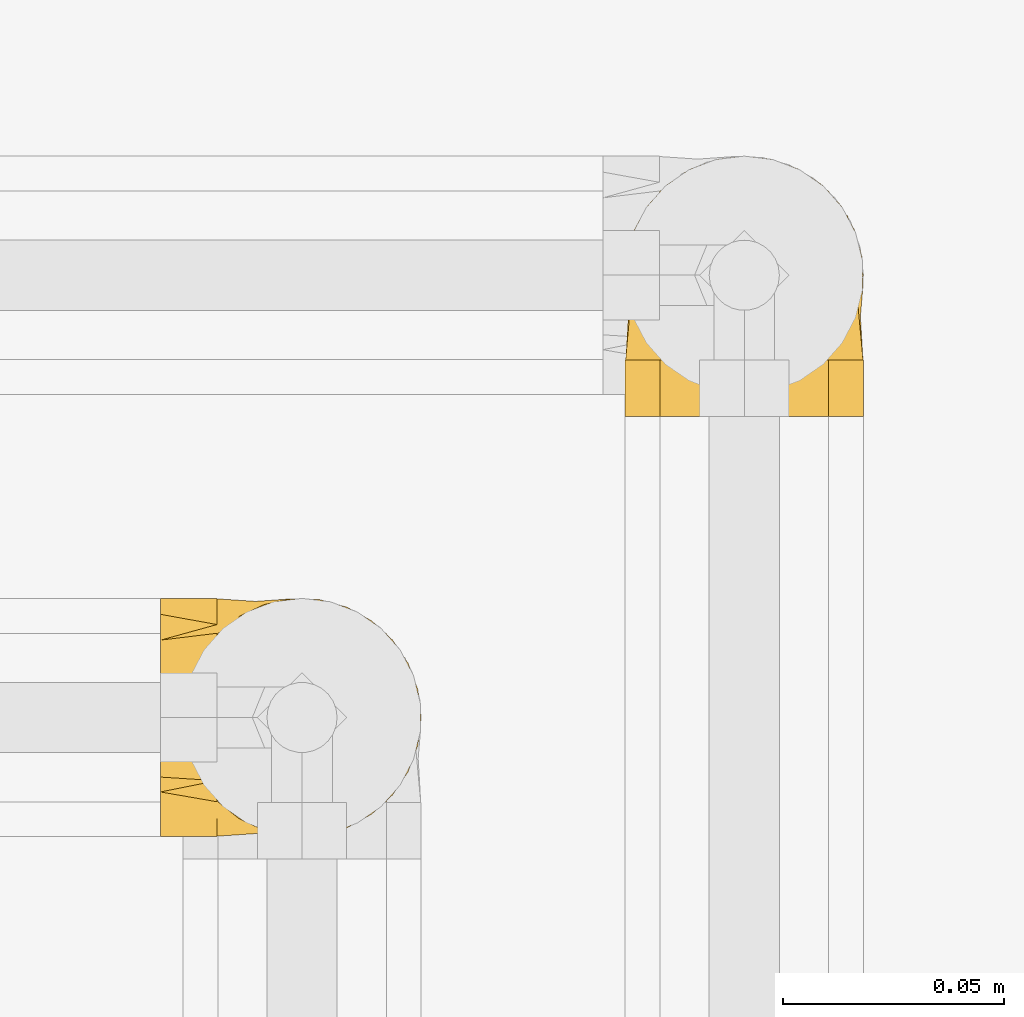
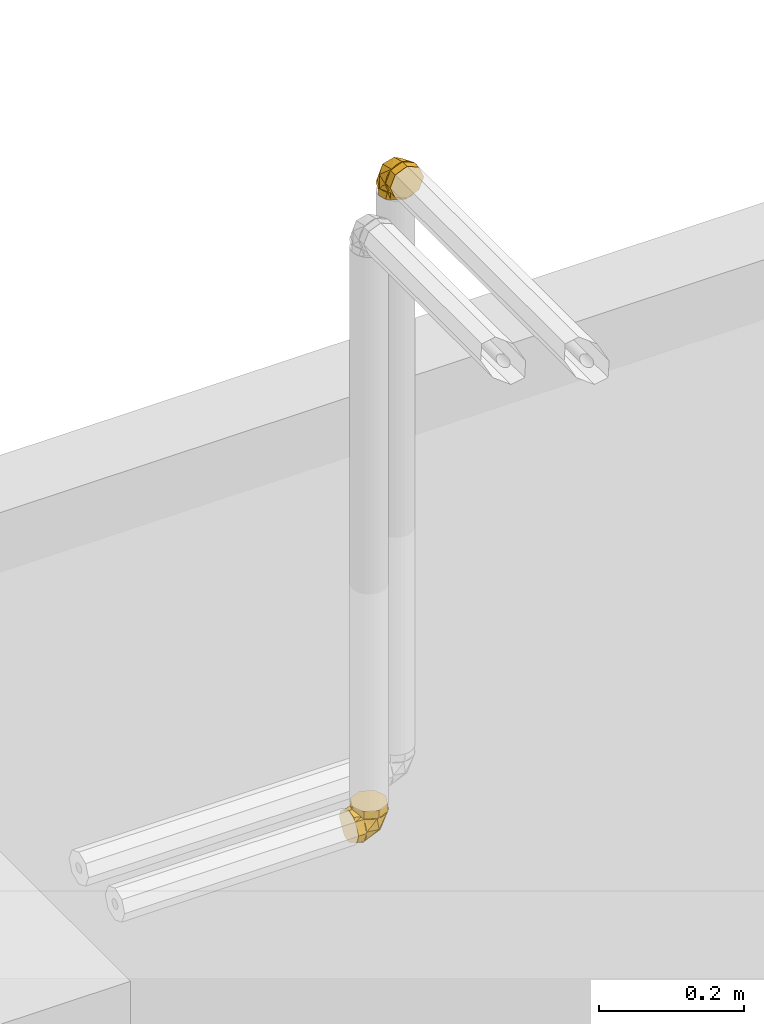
# One storey, part 320 of 652: 2 coverings.
"""IFC2X3 building model written with IfcOpenShell, lengths in millimetres."""

from ifc_helpers import new_model, entity, si_unit, converted_unit, direction, frame, origin, place, context, subcontext, project, spatial, face_set, surface_model, material, type_object, element, save


model = new_model("IFC2X3")

# Units and contexts
model_context = context("Model", 3, precision=0.01, world=frame((0.0, 0.0, 308426.39999999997)), true_north=direction((6.123233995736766e-17, 1.0)))
plan_context = context("Plan", 3, precision=0.01, world=frame((0.0, 0.0, 308426.39999999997)), true_north=direction((6.123233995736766e-17, 1.0)))
body_context = subcontext(model_context, "Body", "Model", "MODEL_VIEW")
ifc_project = project(units=[si_unit("LENGTHUNIT", "METRE", prefix="MILLI"), si_unit("AREAUNIT", "SQUARE_METRE"), si_unit("VOLUMEUNIT", "CUBIC_METRE"), converted_unit("PLANEANGLEUNIT", "DEGREE", entity("IfcPlaneAngleMeasure", 0.017453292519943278), si_unit("PLANEANGLEUNIT", "RADIAN"), dimensions=[0, 0, 0, 0, 0, 0, 0])], contexts=[model_context, plan_context])

# Site, building, storey
site_placement = place(None, origin())
site = spatial("IfcSite", under=ifc_project, at=site_placement, Name="Default", CompositionType="ELEMENT")
building_placement = place(site_placement, origin())
building = spatial("IfcBuilding", under=site, at=building_placement, CompositionType="ELEMENT")
storey_placement = place(building_placement, frame((0.0, 0.0, 1730.6999999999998)))
storey = spatial("IfcBuildingStorey", under=building, at=storey_placement, Name="EG_Produktion_FFB", CompositionType="ELEMENT", Elevation=1730.6999999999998)

# Coverings
ifc_material = material(Name="Dämmung - Armaflex-Schlauch")
covering_type = type_object("IfcCoveringType", Name="Rohrdämmung außen:Armaflex-Schlauch", PredefinedType="INSULATION")
covering_1_placement = place(storey_placement, frame((40968.016249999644, 50293.503785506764, 2671.4672277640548)))
element("IfcCovering", 1, at=covering_1_placement, inside=storey, type_object=covering_type, material=ifc_material, Name="Rohrdämmung außen:Armaflex-Schlauch", ObjectType="Rohrdämmung außen:Armaflex-Schlauch", PredefinedType="INSULATION", context=body_context, shape_type="SurfaceModel", body=[
    surface_model("IfcFaceBasedSurfaceModel", [(12.766249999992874, 9.65642195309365, 47.750272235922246), (17.724287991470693, 5.678961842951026, 47.750272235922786), (23.47627931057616, 2.973980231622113, 47.750272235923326), (29.70195853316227, 1.6920879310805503, 47.75027223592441), (36.054685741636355, 1.904659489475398, 47.75027223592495), (42.1807471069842, 3.599859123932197, 47.75027223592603), (47.7390493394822, 6.683299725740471, 47.75027223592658), (52.420111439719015, 10.983298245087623, 47.75027223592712), (55.963296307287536, 16.26043484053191, 47.75027223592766), (58.17132276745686, 22.220883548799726, 47.75027223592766), (58.921249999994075, 28.532772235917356, 47.75027223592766), (58.17132276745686, 34.844660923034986, 47.75027223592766), (55.963296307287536, 40.8051096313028, 47.75027223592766), (52.420111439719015, 46.08224622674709, 47.75027223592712), (47.7390493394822, 50.38224474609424, 47.75027223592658), (42.1807471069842, 53.465685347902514, 47.75027223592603), (36.054685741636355, 55.16088498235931, 47.75027223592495), (29.70195853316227, 55.37345654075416, 47.75027223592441), (23.47627931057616, 54.0915642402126, 47.750272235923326), (17.724287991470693, 51.38658262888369, 47.750272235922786), (12.766249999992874, 47.409122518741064, 47.750272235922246), (12.766249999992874, 51.38658262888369, 42.79223424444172), (12.766249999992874, 54.0915642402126, 37.04024292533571), (12.766249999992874, 55.37345654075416, 30.81456370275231), (12.766249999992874, 55.16088498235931, 24.46183649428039), (12.766249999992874, 53.465685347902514, 18.33577512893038), (12.766249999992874, 50.38224474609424, 12.777472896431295), (12.766250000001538, 46.08224622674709, 8.096410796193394), (12.766250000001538, 40.8051096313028, 4.553225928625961), (12.766250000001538, 34.844660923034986, 2.3451994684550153), (12.766250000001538, 28.532772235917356, 1.5952722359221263), (12.766250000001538, 22.220883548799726, 2.3451994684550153), (12.766250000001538, 16.26043484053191, 4.553225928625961), (12.766250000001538, 10.983298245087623, 8.096410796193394), (12.766249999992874, 6.683299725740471, 12.777472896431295), (12.766249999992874, 3.599859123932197, 18.33577512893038), (12.766249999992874, 1.904659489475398, 24.46183649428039), (12.766249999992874, 1.6920879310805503, 30.81456370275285), (12.766249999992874, 2.973980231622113, 37.04024292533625), (12.766249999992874, 5.678961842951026, 42.79223424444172), (21.444589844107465, 2.277379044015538, 37.807400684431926), (52.73570312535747, 28.53159046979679, 24.672737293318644), (33.564780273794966, 3.5982286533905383, 26.951086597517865), (41.06199707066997, 6.337596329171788, 47.75039842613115), (31.030051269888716, 28.53159046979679, 12.139781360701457), (41.843344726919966, 14.28594837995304, 17.332487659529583), (12.766049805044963, 6.337596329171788, 19.455613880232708), (41.843344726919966, 42.78188343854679, 17.332487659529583), (33.564780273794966, 53.46495228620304, 26.951086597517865), (21.444589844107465, 54.79045277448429, 37.807400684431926), (12.766049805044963, 50.72558461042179, 19.455613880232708), (41.06199707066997, 50.72558461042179, 47.75039842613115), (53.00389168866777, 14.247005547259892, 60.51652223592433), (54.97634445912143, 19.008927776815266, 60.51652223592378), (56.948797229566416, 23.770850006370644, 60.5165222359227), (58.921250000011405, 28.532772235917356, 60.5165222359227), (56.948797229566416, 33.29469446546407, 60.51652223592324), (54.97634445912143, 38.05661669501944, 60.51652223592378), (53.00389168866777, 42.81853892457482, 60.51652223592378), (51.03143891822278, 47.5804611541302, 60.51652223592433), (46.26951668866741, 49.552913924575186, 60.51652223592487), (41.507594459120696, 51.525366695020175, 60.51652223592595), (36.74567222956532, 53.49781946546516, 60.51652223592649), (31.983750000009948, 55.47027223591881, 60.516522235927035), (27.22182777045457, 53.497819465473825, 60.516522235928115), (22.459905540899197, 51.525366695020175, 60.516522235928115), (17.69798331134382, 49.552913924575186, 60.516522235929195), (12.936061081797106, 47.5804611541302, 60.51652223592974), (10.963608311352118, 42.81853892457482, 60.51652223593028), (8.991155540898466, 38.05661669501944, 60.51652223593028), (7.018702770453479, 33.29469446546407, 60.51652223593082), (5.046250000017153, 28.532772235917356, 60.51652223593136), (7.018702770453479, 23.77085000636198, 60.51652223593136), (8.991155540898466, 19.008927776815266, 60.51652223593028), (10.963608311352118, 14.247005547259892, 60.51652223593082), (12.936061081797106, 9.485083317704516, 60.51652223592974), (17.697983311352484, 7.512630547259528, 60.516522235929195), (22.459905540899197, 5.54017777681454, 60.516522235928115), (27.22182777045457, 3.567725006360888, 60.516522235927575), (31.983750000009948, 1.5952722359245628, 60.516522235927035), (36.74567222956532, 3.567725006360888, 60.51652223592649), (41.507594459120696, 5.54017777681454, 60.51652223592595), (46.26951668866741, 7.512630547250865, 60.51652223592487), (51.03143891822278, 9.485083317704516, 60.51652223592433), (58.92125000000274, 28.532772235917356, 47.75027223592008), (56.948797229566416, 23.77085000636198, 47.750272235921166), (54.97634445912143, 19.008927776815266, 47.750272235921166), (53.00389168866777, 14.247005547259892, 47.750272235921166), (51.03143891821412, 9.485083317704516, 47.750272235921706), (45.26304951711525, 7.095738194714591, 47.750272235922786), (39.49466011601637, 4.706393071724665, 47.750272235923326), (31.983750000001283, 1.5952722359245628, 47.75027223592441), (27.22182777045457, 3.567725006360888, 47.75027223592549), (22.459905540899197, 5.54017777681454, 47.75027223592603), (17.69798331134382, 7.512630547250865, 47.75027223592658), (12.936061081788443, 9.485083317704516, 47.75027223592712), (10.546715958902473, 15.253472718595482, 47.75027223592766), (8.157370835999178, 21.021862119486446, 47.7502722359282), (5.046250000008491, 28.532772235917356, 47.75027223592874), (7.018702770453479, 33.29469446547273, 47.75027223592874), (8.991155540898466, 38.05661669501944, 47.7502722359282), (10.963608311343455, 42.81853892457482, 47.75027223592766), (12.936061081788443, 47.5804611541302, 47.75027223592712), (18.704450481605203, 49.96980627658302, 47.75027223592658), (24.472839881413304, 52.359151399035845, 47.75027223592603), (31.983750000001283, 55.47027223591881, 47.75027223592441), (36.74567222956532, 53.497819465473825, 47.75027223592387), (41.507594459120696, 51.525366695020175, 47.750272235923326), (46.26951668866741, 49.552913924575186, 47.750272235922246), (51.03143891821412, 47.5804611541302, 47.750272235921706), (53.420784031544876, 41.81207177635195, 47.750272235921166), (55.810129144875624, 36.0436823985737, 47.750272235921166), (0.0, 28.532772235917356, 1.5952722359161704), (0.0, 22.700632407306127, 4.962459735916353), (0.0, 16.868492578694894, 8.329647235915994), (0.0, 11.036352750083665, 11.696834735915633), (0.0, 5.204212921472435, 15.064022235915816), (0.0, 3.3997425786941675, 21.798397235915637), (0.0, 1.5952722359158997, 28.532772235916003), (0.0, 4.962459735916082, 34.36491206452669), (0.0, 8.329647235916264, 40.19705189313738), (0.0, 11.696834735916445, 46.02919172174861), (0.0, 15.064022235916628, 51.861331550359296), (0.0, 21.79839723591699, 53.66580189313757), (0.0, 28.532772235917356, 55.470272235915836), (0.0, 34.36491206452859, 52.10308473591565), (0.0, 40.197051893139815, 48.73589723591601), (0.0, 46.02919172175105, 45.36870973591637), (0.0, 51.86133155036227, 42.00152223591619), (0.0, 53.66580189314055, 35.26714723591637), (0.0, 55.47027223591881, 28.532772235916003), (0.0, 52.10308473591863, 22.700632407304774), (0.0, 48.73589723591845, 16.868492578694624), (0.0, 45.368709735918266, 11.036352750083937), (0.0, 42.00152223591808, 5.204212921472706), (0.0, 35.26714723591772, 3.3997425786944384), (12.766250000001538, 28.532772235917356, 1.5952722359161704), (12.766250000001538, 33.29469446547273, 3.567725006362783), (12.766250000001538, 38.05661669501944, 5.540177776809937), (12.766249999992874, 42.81853892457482, 7.512630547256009), (12.766250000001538, 47.5804611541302, 9.485083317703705), (12.766250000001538, 49.552913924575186, 14.247005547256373), (12.766250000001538, 51.525366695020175, 19.008927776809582), (12.766250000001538, 53.49781946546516, 23.770850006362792), (12.766250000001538, 55.47027223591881, 28.532772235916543), (12.766250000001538, 53.497819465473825, 33.29469446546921), (12.766250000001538, 51.525366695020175, 38.05661669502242), (12.766250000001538, 49.552913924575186, 42.818538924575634), (12.766250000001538, 47.5804611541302, 47.58046115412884), (12.766250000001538, 42.81853892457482, 49.552913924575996), (12.766250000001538, 38.05661669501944, 51.525366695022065), (12.766250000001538, 33.29469446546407, 53.49781946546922), (12.766250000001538, 28.532772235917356, 55.470272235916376), (12.766250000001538, 23.77085000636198, 53.49781946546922), (12.766250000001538, 19.008927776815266, 51.525366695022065), (12.766250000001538, 14.247005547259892, 49.552913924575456), (12.766250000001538, 9.485083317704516, 47.58046115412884), (12.766250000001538, 7.512630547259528, 42.818538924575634), (12.766250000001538, 5.54017777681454, 38.05661669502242), (12.766250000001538, 3.567725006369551, 33.29469446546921), (12.766250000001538, 1.5952722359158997, 28.532772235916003), (12.766250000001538, 3.567725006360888, 23.770850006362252), (12.766250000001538, 5.54017777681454, 19.008927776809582), (12.766249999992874, 7.512630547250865, 14.247005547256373), (12.766250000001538, 9.485083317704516, 9.485083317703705), (12.766250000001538, 14.247005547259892, 7.51263054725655), (12.766250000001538, 19.008927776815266, 5.540177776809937), (12.766249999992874, 23.77085000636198, 3.567725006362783)], [face_set([[[0, 1, 2, 3, 4, 5, 6, 7, 8, 9, 10, 11, 12, 13, 14, 15, 16, 17, 18, 19]], [[20, 21, 22, 23, 24, 25, 26, 27, 28, 29, 30, 31, 32, 33, 34, 35, 36, 37, 38, 39]], [[0, 40, 3]], [[10, 7, 41]], [[37, 42, 40]], [[42, 7, 43]], [[37, 40, 0]], [[3, 40, 42]], [[44, 41, 45]], [[7, 45, 41]], [[33, 30, 44]], [[44, 45, 33]], [[42, 33, 45]], [[42, 37, 46]], [[7, 42, 45]], [[43, 3, 42]], [[46, 33, 42]], [[13, 10, 41]], [[27, 47, 44]], [[44, 30, 27]], [[48, 47, 27]], [[49, 48, 23]], [[48, 50, 23]], [[44, 47, 41]], [[20, 49, 23]], [[47, 48, 13]], [[17, 49, 20]], [[41, 47, 13]], [[48, 17, 51]], [[48, 27, 50]], [[17, 48, 49]], [[51, 13, 48]]]), face_set([[[52, 53, 54, 55, 56, 57, 58, 59, 60, 61, 62, 63, 64, 65, 66, 67, 68, 69, 70, 71, 72, 73, 74, 75, 76, 77, 78, 79, 80, 81, 82, 83]], [[84, 85, 86, 87, 88, 89, 90, 91, 92, 93, 94, 95, 96, 97, 98, 99, 100, 101, 102, 103, 104, 105, 106, 107, 108, 109, 110, 111]], [[111, 110, 109, 59, 58, 57, 56, 55, 84]], [[59, 109, 108, 107, 106, 105, 63, 62, 61, 60]], [[104, 103, 102, 67, 66, 65, 64, 63, 105]], [[67, 102, 101, 100, 99, 98, 71, 70, 69, 68]], [[97, 96, 95, 75, 74, 73, 72, 71, 98]], [[75, 95, 94, 93, 92, 91, 79, 78, 77, 76]], [[90, 89, 88, 83, 82, 81, 80, 79, 91]], [[83, 88, 87, 86, 85, 84, 55, 54, 53, 52]]]), face_set([[[112, 113, 114, 115, 116, 117, 118, 119, 120, 121, 122, 123, 124, 125, 126, 127, 128, 129, 130, 131, 132, 133, 134, 135]], [[136, 137, 138, 139, 140, 141, 142, 143, 144, 145, 146, 147, 148, 149, 150, 151, 152, 153, 154, 155, 156, 157, 158, 159, 160, 161, 162, 163, 164, 165, 166, 167]], [[155, 121, 156]], [[118, 159, 119]], [[159, 158, 119]], [[123, 154, 153]], [[153, 152, 124]], [[121, 155, 122]], [[120, 158, 157]], [[118, 160, 159]], [[158, 120, 119]], [[124, 123, 153]], [[157, 156, 121]], [[155, 154, 122]], [[123, 122, 154]], [[120, 157, 121]], [[163, 115, 164]], [[112, 167, 113]], [[167, 166, 113]], [[117, 162, 161]], [[161, 160, 118]], [[115, 163, 116]], [[114, 166, 165]], [[112, 136, 167]], [[166, 114, 113]], [[118, 117, 161]], [[165, 164, 115]], [[163, 162, 116]], [[117, 116, 162]], [[114, 165, 115]], [[139, 133, 140]], [[130, 143, 131]], [[143, 142, 131]], [[135, 138, 137]], [[137, 136, 112]], [[133, 139, 134]], [[132, 142, 141]], [[130, 144, 143]], [[142, 132, 131]], [[112, 135, 137]], [[141, 140, 133]], [[139, 138, 134]], [[135, 134, 138]], [[132, 141, 133]], [[147, 127, 148]], [[124, 151, 125]], [[151, 150, 125]], [[129, 146, 145]], [[145, 144, 130]], [[127, 147, 128]], [[126, 150, 149]], [[124, 152, 151]], [[150, 126, 125]], [[130, 129, 145]], [[149, 148, 127]], [[147, 146, 128]], [[129, 128, 146]], [[126, 149, 127]]])]),
])
covering_2_placement = place(storey_placement, frame((41071.46722776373, 50390.05280774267, 3728.532772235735)))
element("IfcCovering", 2, at=covering_2_placement, inside=storey, type_object=covering_type, material=ifc_material, Name="Rohrdämmung außen:Armaflex-Schlauch", ObjectType="Rohrdämmung außen:Armaflex-Schlauch", PredefinedType="INSULATION", context=body_context, shape_type="SurfaceModel", body=[
    surface_model("IfcFaceBasedSurfaceModel", [(47.409122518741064, 12.766250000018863, -47.75027223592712), (51.38658262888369, 12.766250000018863, -42.79223424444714), (54.0915642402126, 12.766250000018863, -37.040242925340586), (55.37345654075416, 12.766250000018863, -30.814563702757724), (55.16088498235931, 12.766250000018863, -24.461836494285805), (53.465685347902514, 12.766250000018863, -18.335775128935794), (50.38224474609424, 12.766250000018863, -12.77747289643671), (46.08224622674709, 12.766250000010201, -8.096410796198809), (40.8051096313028, 12.766250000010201, -4.553225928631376), (34.844660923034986, 12.766250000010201, -2.3451994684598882), (28.532772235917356, 12.766250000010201, -1.595272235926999), (22.220883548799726, 12.766250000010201, -2.3451994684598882), (16.26043484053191, 12.766250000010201, -4.553225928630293), (10.983298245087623, 12.766250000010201, -8.096410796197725), (6.683299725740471, 12.766250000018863, -12.77747289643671), (3.599859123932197, 12.766250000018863, -18.33577512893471), (1.904659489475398, 12.766250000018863, -24.461836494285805), (1.6920879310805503, 12.766250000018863, -30.814563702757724), (2.973980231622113, 12.766250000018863, -37.040242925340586), (5.678961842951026, 12.766250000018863, -42.79223424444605), (9.65642195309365, 12.766250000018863, -47.75027223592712), (5.678961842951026, 17.72428799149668, -47.75027223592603), (2.973980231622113, 23.47627931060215, -47.75027223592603), (1.6920879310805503, 29.70195853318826, -47.75027223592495), (1.904659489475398, 36.05468574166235, -47.75027223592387), (3.599859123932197, 42.18074710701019, -47.75027223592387), (6.683299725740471, 47.73904933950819, -47.750272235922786), (10.983298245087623, 52.42011143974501, -47.750272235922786), (16.26043484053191, 55.96329630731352, -47.750272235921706), (22.220883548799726, 58.17132276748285, -47.750272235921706), (28.532772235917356, 58.921250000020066, -47.750272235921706), (34.844660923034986, 58.17132276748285, -47.750272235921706), (40.8051096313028, 55.96329630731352, -47.750272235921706), (46.08224622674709, 52.42011143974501, -47.750272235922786), (50.38224474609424, 47.73904933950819, -47.750272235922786), (53.465685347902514, 42.18074710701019, -47.75027223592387), (55.16088498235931, 36.05468574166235, -47.75027223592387), (55.37345654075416, 29.70195853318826, -47.75027223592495), (54.0915642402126, 23.47627931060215, -47.75027223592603), (51.38658262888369, 17.72428799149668, -47.75027223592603), (54.78991334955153, 22.70726305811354, -39.06942689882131), (28.531051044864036, 35.84599596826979, -7.778894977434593), (50.729696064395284, 12.76833483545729, -19.4555078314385), (53.46441286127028, 33.56706530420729, -26.950980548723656), (42.78134401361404, 43.18508288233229, -18.67474153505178), (28.531051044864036, 48.37546374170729, -29.48629091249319), (50.729696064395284, 41.059631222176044, -47.75029237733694), (14.285408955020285, 43.18508288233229, -18.67474153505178), (3.5976892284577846, 33.56706530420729, -26.950980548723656), (2.2768396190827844, 22.70726305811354, -39.06942689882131), (6.337056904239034, 41.059631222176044, -47.75029237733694), (6.337056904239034, 12.76833483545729, -19.4555078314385), (28.532772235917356, 0.0, -1.5952722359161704), (23.77085000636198, 0.0, -3.567725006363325), (19.008927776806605, 0.0, -5.540177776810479), (14.247005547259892, 0.0, -7.51263054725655), (9.485083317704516, 0.0, -9.485083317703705), (7.512630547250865, 0.0, -14.247005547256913), (5.540177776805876, 0.0, -19.008927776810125), (3.567725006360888, 0.0, -23.770850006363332), (1.5952722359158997, 0.0, -28.532772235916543), (3.567725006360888, 0.0, -33.29469446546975), (5.540177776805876, 0.0, -38.05661669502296), (7.512630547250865, 0.0, -42.818538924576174), (9.485083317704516, 0.0, -47.58046115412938), (14.247005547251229, 0.0, -49.552913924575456), (19.008927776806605, 0.0, -51.52536669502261), (23.77085000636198, 0.0, -53.49781946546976), (28.532772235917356, 0.0, -55.470272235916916), (33.29469446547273, 0.0, -53.49781946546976), (38.056616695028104, 0.0, -51.52536669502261), (42.818538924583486, 0.0, -49.552913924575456), (47.5804611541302, 0.0, -47.58046115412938), (49.55291392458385, 0.0, -42.818538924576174), (51.525366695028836, 0.0, -38.05661669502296), (53.497819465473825, 0.0, -33.29469446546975), (55.47027223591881, 0.0, -28.532772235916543), (53.497819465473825, 0.0, -23.770850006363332), (51.525366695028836, 0.0, -19.008927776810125), (49.552913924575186, 0.0, -14.247005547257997), (47.5804611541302, 0.0, -9.485083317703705), (42.81853892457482, 0.0, -7.51263054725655), (38.056616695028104, 0.0, -5.540177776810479), (33.29469446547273, 0.0, -3.567725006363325), (28.532772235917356, 12.766250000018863, -1.5952722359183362), (33.29469446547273, 12.766250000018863, -3.567725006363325), (38.056616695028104, 12.766250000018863, -5.540177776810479), (42.81853892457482, 12.766250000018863, -7.512630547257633), (47.5804611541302, 12.766250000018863, -9.48508331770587), (49.96980627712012, 12.766250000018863, -15.25347271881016), (52.35915140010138, 12.766250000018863, -21.021862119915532), (55.47027223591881, 12.766250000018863, -28.53277223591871), (53.497819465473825, 12.766250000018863, -33.29469446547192), (51.525366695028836, 12.766250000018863, -38.05661669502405), (49.552913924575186, 12.766250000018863, -42.818538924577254), (47.5804611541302, 12.766250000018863, -47.58046115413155), (41.81207175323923, 12.766250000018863, -49.96980627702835), (36.04368235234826, 12.766250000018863, -52.35915139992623), (28.532772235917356, 12.766250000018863, -55.47027223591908), (23.77085000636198, 12.766250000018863, -53.49781946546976), (19.008927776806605, 12.766250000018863, -51.52536669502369), (14.247005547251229, 12.766250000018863, -49.552913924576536), (9.485083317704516, 12.766250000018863, -47.58046115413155), (7.095738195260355, 12.766250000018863, -41.81207175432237), (4.706393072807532, 12.766250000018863, -36.04368235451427), (1.5952722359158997, 12.766250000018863, -28.53277223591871), (3.567725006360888, 12.766250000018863, -23.7708500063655), (5.540177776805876, 12.766250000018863, -19.008927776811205), (7.512630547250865, 12.766250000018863, -14.247005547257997), (9.485083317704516, 12.766250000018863, -9.48508331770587), (15.253472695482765, 12.766250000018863, -7.09573820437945), (21.021862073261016, 12.766250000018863, -4.7063930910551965), (28.532772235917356, 58.92125000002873, -60.51652223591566), (34.36491206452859, 55.55406250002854, -60.51652223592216), (40.197051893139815, 52.186875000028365, -60.51652223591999), (46.02919172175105, 48.81968750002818, -60.516522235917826), (51.86133155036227, 45.452500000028, -60.51652223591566), (53.66580189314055, 38.718125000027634, -60.51652223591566), (55.47027223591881, 31.98375000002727, -60.51652223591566), (52.10308473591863, 26.151610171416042, -60.51652223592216), (48.73589723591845, 20.319470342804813, -60.51652223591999), (45.368709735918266, 14.487330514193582, -60.516522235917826), (42.00152223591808, 8.655190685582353, -60.51652223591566), (35.26714723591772, 6.850720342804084, -60.51652223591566), (28.532772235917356, 5.046250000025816, -60.51652223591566), (22.700632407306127, 8.413437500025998, -60.51652223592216), (16.868492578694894, 11.78062500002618, -60.51652223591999), (11.036352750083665, 15.147812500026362, -60.516522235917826), (5.204212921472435, 18.515000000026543, -60.51652223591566), (3.3997425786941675, 25.24937500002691, -60.51652223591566), (1.5952722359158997, 31.98375000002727, -60.51652223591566), (4.962459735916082, 37.815889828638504, -60.51652223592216), (8.329647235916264, 43.64802965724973, -60.51652223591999), (11.696834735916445, 49.48016948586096, -60.516522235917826), (15.064022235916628, 55.312309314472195, -60.51652223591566), (21.79839723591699, 57.11677965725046, -60.51652223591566), (28.532772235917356, 58.92125000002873, -47.75027223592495), (23.77085000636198, 56.94879722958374, -47.75027223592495), (19.008927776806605, 54.97634445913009, -47.75027223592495), (14.247005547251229, 53.0038916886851, -47.75027223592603), (9.485083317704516, 51.03143891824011, -47.75027223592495), (7.512630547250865, 46.26951668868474, -47.75027223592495), (5.540177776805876, 41.50759445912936, -47.75027223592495), (3.567725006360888, 36.745672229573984, -47.75027223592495), (1.5952722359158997, 31.98375000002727, -47.75027223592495), (3.567725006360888, 27.221827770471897, -47.75027223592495), (5.540177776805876, 22.459905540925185, -47.75027223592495), (7.512630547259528, 17.697983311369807, -47.75027223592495), (9.485083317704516, 12.936061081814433, -47.75027223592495), (14.247005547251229, 10.963608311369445, -47.75027223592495), (19.008927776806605, 8.991155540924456, -47.75027223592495), (23.77085000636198, 7.018702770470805, -47.75027223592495), (28.532772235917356, 5.046250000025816, -47.75027223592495), (33.29469446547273, 7.018702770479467, -47.75027223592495), (38.056616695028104, 8.991155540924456, -47.75027223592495), (42.818538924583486, 10.963608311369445, -47.75027223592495), (47.5804611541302, 12.936061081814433, -47.75027223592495), (49.55291392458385, 17.697983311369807, -47.75027223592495), (51.525366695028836, 22.459905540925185, -47.75027223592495), (53.497819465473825, 27.22182777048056, -47.75027223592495), (55.47027223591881, 31.98375000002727, -47.75027223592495), (53.497819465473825, 36.745672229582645, -47.75027223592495), (51.525366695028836, 41.50759445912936, -47.75027223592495), (49.552913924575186, 46.26951668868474, -47.75027223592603), (47.5804611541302, 51.03143891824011, -47.75027223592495), (42.81853892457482, 53.0038916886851, -47.75027223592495), (38.056616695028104, 54.97634445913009, -47.75027223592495), (33.29469446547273, 56.94879722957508, -47.75027223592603)], [face_set([[[0, 1, 2, 3, 4, 5, 6, 7, 8, 9, 10, 11, 12, 13, 14, 15, 16, 17, 18, 19]], [[20, 21, 22, 23, 24, 25, 26, 27, 28, 29, 30, 31, 32, 33, 34, 35, 36, 37, 38, 39]], [[0, 40, 3]], [[10, 7, 41]], [[42, 3, 43]], [[40, 43, 3]], [[37, 40, 0]], [[7, 43, 44]], [[45, 41, 44]], [[7, 44, 41]], [[33, 30, 45]], [[45, 44, 33]], [[43, 33, 44]], [[43, 37, 46]], [[43, 7, 42]], [[37, 43, 40]], [[46, 33, 43]], [[13, 10, 41]], [[27, 47, 45]], [[45, 30, 27]], [[48, 47, 27]], [[49, 48, 23]], [[48, 50, 23]], [[45, 47, 41]], [[20, 49, 23]], [[47, 48, 13]], [[17, 49, 20]], [[41, 47, 13]], [[48, 17, 51, 13]], [[48, 27, 50]], [[17, 48, 49]]]), face_set([[[52, 53, 54, 55, 56, 57, 58, 59, 60, 61, 62, 63, 64, 65, 66, 67, 68, 69, 70, 71, 72, 73, 74, 75, 76, 77, 78, 79, 80, 81, 82, 83]], [[84, 85, 86, 87, 88, 89, 90, 91, 92, 93, 94, 95, 96, 97, 98, 99, 100, 101, 102, 103, 104, 105, 106, 107, 108, 109, 110, 111]], [[111, 110, 109, 56, 55, 54, 53, 52, 84]], [[56, 109, 108, 107, 106, 105, 60, 59, 58, 57]], [[104, 103, 102, 64, 63, 62, 61, 60, 105]], [[64, 102, 101, 100, 99, 98, 68, 67, 66, 65]], [[97, 96, 95, 72, 71, 70, 69, 68, 98]], [[72, 95, 94, 93, 92, 91, 76, 75, 74, 73]], [[90, 89, 88, 80, 79, 78, 77, 76, 91]], [[80, 88, 87, 86, 85, 84, 52, 83, 82, 81]]]), face_set([[[112, 113, 114, 115, 116, 117, 118, 119, 120, 121, 122, 123, 124, 125, 126, 127, 128, 129, 130, 131, 132, 133, 134, 135]], [[136, 137, 138, 139, 140, 141, 142, 143, 144, 145, 146, 147, 148, 149, 150, 151, 152, 153, 154, 155, 156, 157, 158, 159, 160, 161, 162, 163, 164, 165, 166, 167]], [[155, 121, 156]], [[118, 159, 119]], [[159, 158, 119]], [[123, 154, 153]], [[153, 152, 124]], [[121, 155, 122]], [[120, 158, 157]], [[118, 160, 159]], [[158, 120, 119]], [[124, 123, 153]], [[157, 156, 121]], [[155, 154, 122]], [[123, 122, 154]], [[120, 157, 121]], [[163, 115, 164]], [[112, 167, 113]], [[167, 166, 113]], [[117, 162, 161]], [[161, 160, 118]], [[115, 163, 116]], [[114, 166, 165]], [[112, 136, 167]], [[166, 114, 113]], [[118, 117, 161]], [[165, 164, 115]], [[163, 162, 116]], [[117, 116, 162]], [[114, 165, 115]], [[139, 133, 140]], [[130, 143, 131]], [[143, 142, 131]], [[135, 138, 137]], [[137, 136, 112]], [[133, 139, 134]], [[132, 142, 141]], [[130, 144, 143]], [[142, 132, 131]], [[112, 135, 137]], [[141, 140, 133]], [[139, 138, 134]], [[135, 134, 138]], [[132, 141, 133]], [[147, 127, 148]], [[124, 151, 125]], [[151, 150, 125]], [[129, 146, 145]], [[145, 144, 130]], [[127, 147, 128]], [[126, 150, 149]], [[124, 152, 151]], [[150, 126, 125]], [[130, 129, 145]], [[149, 148, 127]], [[147, 146, 128]], [[129, 128, 146]], [[126, 149, 127]]])]),
])

save(model, "model.ifc")
